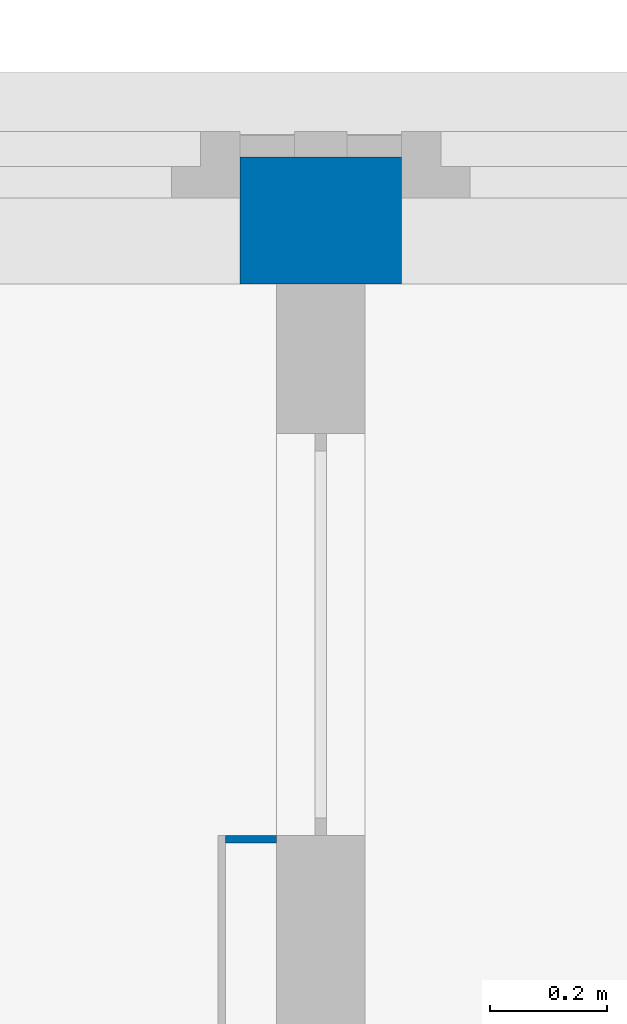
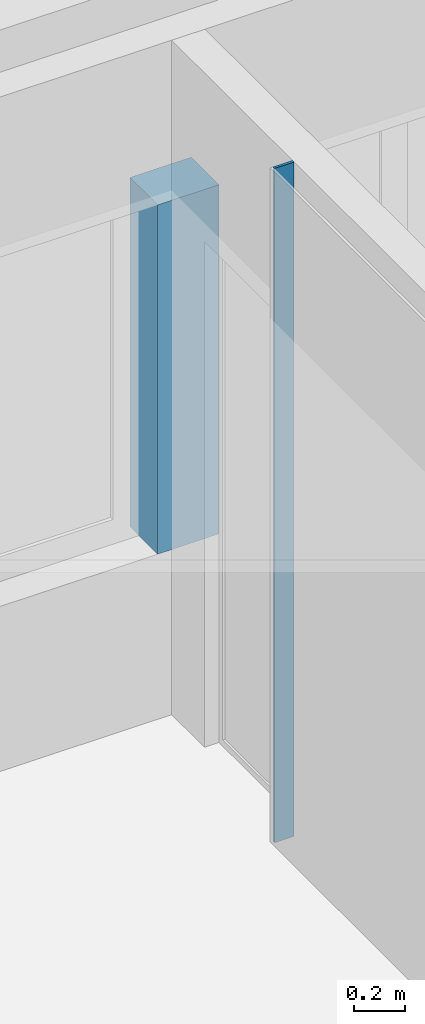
# One storey, part 63 of 117: 2 walls.
"""IFC2X3 building model written with IfcOpenShell, lengths in millimetres."""

import ifcopenshell
import ifcopenshell.guid

model = None  # the IFC model being written
_history = None  # IfcOwnerHistory: only IFC2X3 demands one
_inside = {}  # id of a spatial element -> (the spatial element, [elements in it])
_under = {}  # id of a project, library or spatial element -> (it, [spatial elements below it])
_declared = {}  # id of a project -> (the project, [libraries it declares])
_typed = {}  # id of a type object -> (the type object, [elements of that type])
_made_of = {}  # id of a material, layer set ... -> (it, [elements and type objects made of it])


def new_model(schema):
    """Start an empty IFC model of exactly this schema.

    Asked for "IFC4X3", IfcOpenShell would pick the latest addendum, in which some entities
    have other attributes; the version numbers below select the first issue.
    IFC2X3 requires an IfcOwnerHistory on every rooted entity: one is made here for all.
    """
    global model, _history
    if schema == "IFC4X3":
        model = ifcopenshell.file(schema_version=(4, 3, 0, 0))
    else:
        model = ifcopenshell.file(schema=schema)
    _inside.clear()
    _under.clear()
    _declared.clear()
    _typed.clear()
    _made_of.clear()
    _history = None
    if model.schema == "IFC2X3":
        org = make("IfcOrganization", Name="unknown")
        user = make(
            "IfcPersonAndOrganization",
            ThePerson=make("IfcPerson", FamilyName="unknown"),
            TheOrganization=org,
        )
        app = make(
            "IfcApplication",
            ApplicationDeveloper=org,
            Version="unknown",
            ApplicationFullName="unknown",
            ApplicationIdentifier="unknown",
        )
        _history = make(
            "IfcOwnerHistory",
            OwningUser=user,
            OwningApplication=app,
            ChangeAction="ADDED",
            CreationDate=0,
        )
    return model


def make(cls, **values):
    """One entity of the class cls with the attributes given. An attribute that is None is left unset."""
    return model.create_entity(
        cls, **{name: value for name, value in values.items() if value is not None}
    )


def entity(cls, *values):
    """Any entity or typed value of the class cls, its attributes in the order of the schema. None: left unset."""
    e = model.create_entity(cls)
    for i, value in enumerate(values):
        if value is not None:
            e[i] = value
    return e


def rooted(cls, **values):
    """An entity with a GlobalId (a new one), such as an element, a storey or a relation."""
    return make(cls, GlobalId=ifcopenshell.guid.new(), OwnerHistory=_history, **values)


def si_unit(unit_type, name, prefix=None):
    """IfcSIUnit, for example si_unit("LENGTHUNIT", "METRE", prefix="MILLI")."""
    return make("IfcSIUnit", UnitType=unit_type, Prefix=prefix, Name=name)


def converted_unit(unit_type, name, factor, base, dimensions=None, offset=None):
    """IfcConversionBasedUnit, such as the inch: factor (a typed value) times the base unit."""
    return make(
        "IfcConversionBasedUnit"
        if offset is None
        else "IfcConversionBasedUnitWithOffset",
        ConversionOffset=offset,
        Dimensions=None
        if dimensions is None
        else entity("IfcDimensionalExponents", *dimensions),
        UnitType=unit_type,
        Name=name,
        ConversionFactor=make(
            "IfcMeasureWithUnit", ValueComponent=factor, UnitComponent=base
        ),
    )


def derived_unit(unit_type, elements):
    """IfcDerivedUnit: a product of units, each with its exponent."""
    return make(
        "IfcDerivedUnit",
        Elements=[
            make("IfcDerivedUnitElement", Unit=unit, Exponent=power)
            for unit, power in elements
        ],
        UnitType=unit_type,
    )


def money_unit(currency):
    """IfcMonetaryUnit."""
    return make("IfcMonetaryUnit", Currency=currency)


def assignment(units):
    """IfcUnitAssignment: the units of a project."""
    return None if units is None else make("IfcUnitAssignment", Units=units)


def point(xyz):
    """IfcCartesianPoint."""
    return None if xyz is None else make("IfcCartesianPoint", Coordinates=xyz)


def direction(xyz):
    """IfcDirection."""
    return None if xyz is None else make("IfcDirection", DirectionRatios=xyz)


def frame(location, z_axis=None, x_axis=None):
    """IfcAxis2Placement3D, a coordinate frame: its origin and axes. An axis left out is left unset."""
    return make(
        "IfcAxis2Placement3D",
        Location=point(location),
        Axis=direction(z_axis),
        RefDirection=direction(x_axis),
    )


def origin_with_axes():
    """The frame at (0, 0, 0) with the z axis (0, 0, 1) and the x axis (1, 0, 0) written out."""
    return frame((0.0, 0.0, 0.0), z_axis=(0.0, 0.0, 1.0), x_axis=(1.0, 0.0, 0.0))


def place(relative_to, where):
    """IfcLocalPlacement: puts the frame where relative to a parent placement (None: the world)."""
    return make(
        "IfcLocalPlacement", PlacementRelTo=relative_to, RelativePlacement=where
    )


def context(
    kind, dimensions, precision=None, world=None, true_north=None, identifier=None
):
    """IfcGeometricRepresentationContext, for example the 3D "Model" context."""
    return make(
        "IfcGeometricRepresentationContext",
        ContextIdentifier=identifier,
        ContextType=kind,
        CoordinateSpaceDimension=dimensions,
        Precision=precision,
        WorldCoordinateSystem=world,
        TrueNorth=true_north,
    )


def subcontext(parent, identifier, kind, view, scale=None):
    """IfcGeometricRepresentationSubContext, for example "Body" below "Model"."""
    return make(
        "IfcGeometricRepresentationSubContext",
        ContextIdentifier=identifier,
        ContextType=kind,
        ParentContext=parent,
        TargetScale=scale,
        TargetView=view,
    )


def project(units=None, contexts=None):
    """IfcProject with its units and contexts."""
    return rooted(
        "IfcProject",
        Name="project",
        RepresentationContexts=contexts,
        UnitsInContext=assignment(units),
    )


def spatial(cls, under=None, at=None, **own):
    """A site, building, storey or space (cls), placed at a placement, below another one or the project."""
    s = rooted(cls, ObjectPlacement=at, **own)
    if under is not None:
        _under.setdefault(under.id(), (under, []))[1].append(s)
    return s


def faces_of(points, faces, orient=None, outer=None):
    """IfcFace entities. A face is a list of loops; a loop is a list of indices into points, from 0.

    orient and outer hold one flag for each loop. By default every Orientation is true, the
    first loop of a face is its IfcFaceOuterBound and the others are IfcFaceBound.
    """
    made = []
    for i, loops in enumerate(faces):
        bounds = []
        for j, loop in enumerate(loops):
            is_outer = j == 0 if outer is None else outer[i][j]
            bounds.append(
                make(
                    "IfcFaceOuterBound" if is_outer else "IfcFaceBound",
                    Bound=make("IfcPolyLoop", Polygon=[points[k] for k in loop]),
                    Orientation=True if orient is None else orient[i][j],
                )
            )
        made.append(make("IfcFace", Bounds=bounds))
    return made


def faceted_brep(points, faces, orient=None, outer=None, voids=None):
    """IfcFacetedBrep: a solid bounded by flat faces; with voids (closed shells), ...WithVoids."""
    shared = [point(p) for p in points]
    hull = make("IfcClosedShell", CfsFaces=faces_of(shared, faces, orient, outer))
    if voids is None:
        return make("IfcFacetedBrep", Outer=hull)
    return make(
        "IfcFacetedBrepWithVoids",
        Outer=hull,
        Voids=[
            make(cls, CfsFaces=faces_of(shared, fs, o, b)) for cls, fs, o, b in voids
        ],
    )


def shape(context_of_items, identifier, shape_type, items):
    """IfcShapeRepresentation: the items that make up one representation, for example the "Body"."""
    return make(
        "IfcShapeRepresentation",
        ContextOfItems=context_of_items,
        RepresentationIdentifier=identifier,
        RepresentationType=shape_type,
        Items=items,
    )


def material(Name=None, Category=None):
    """IfcMaterial."""
    return make("IfcMaterial", Name=Name, Category=Category)


def made_of(thing, what):
    """Note that an element or type object is made of a material, layer set ...; save() writes the relation."""
    if what is not None:
        _made_of.setdefault(what.id(), (what, []))[1].append(thing)
    return thing


def type_object(cls, material=None, **own):
    """A type object (cls), such as IfcWallType, which elements share."""
    return made_of(rooted(cls, **own), material)


def element(
    cls,
    number,
    at=None,
    inside=None,
    cuts=None,
    type_object=None,
    material=None,
    context=None,
    identifier="Body",
    shape_type=None,
    held_by="IfcProductDefinitionShape",
    body=None,
    shapes=None,
    **own,
):
    """One element of the class cls, such as IfcWall. Its Tag is "e" and its number.

    at: its placement. inside: the storey or other place that contains it. cuts: it is an
    opening in that element (IfcRelVoidsElement). A single representation is given by context,
    identifier, shape_type and body (its items); several are given by shapes. held_by: the class
    of the entity that holds the representations. save() writes the other relations.
    """
    e = rooted(cls, Tag="e%d" % number, ObjectPlacement=at, **own)
    if body is not None:
        shapes = [shape(context, identifier, shape_type, body)]
    if shapes is not None:
        e.Representation = make(held_by, Representations=shapes)
    if inside is not None:
        _inside.setdefault(inside.id(), (inside, []))[1].append(e)
    if cuts is not None:
        rooted(
            "IfcRelVoidsElement", RelatingBuildingElement=cuts, RelatedOpeningElement=e
        )
    if type_object is not None:
        _typed.setdefault(type_object.id(), (type_object, []))[1].append(e)
    return made_of(e, material)


def aggregate(whole, parts):
    """IfcRelAggregates: a whole, such as a stair, and the parts it consists of."""
    return rooted("IfcRelAggregates", RelatingObject=whole, RelatedObjects=parts)


def save(model, path):
    """Write the relations noted so far, then the file.

    IfcRelAggregates (storeys below a building ...), IfcRelContainedInSpatialStructure (elements
    in a storey), IfcRelDefinesByType, IfcRelAssociatesMaterial and IfcRelDeclares: one each for
    every whole, place, type object, material and project.
    """
    for whole, parts in _under.values():
        aggregate(whole, parts)
    for where, things in _inside.values():
        rooted(
            "IfcRelContainedInSpatialStructure",
            RelatedElements=things,
            RelatingStructure=where,
        )
    for kind, things in _typed.values():
        rooted("IfcRelDefinesByType", RelatedObjects=things, RelatingType=kind)
    for what, things in _made_of.values():
        rooted("IfcRelAssociatesMaterial", RelatedObjects=things, RelatingMaterial=what)
    for by, libraries in _declared.values():
        rooted("IfcRelDeclares", RelatingContext=by, RelatedDefinitions=libraries)
    model.write(path)


model = new_model("IFC2X3")

# Units and contexts
model_context = context("Model", 3, precision=0.01, world=origin_with_axes(), true_north=direction((0.0, 1.0)))
body_context = subcontext(model_context, "Body", "Model", "MODEL_VIEW")
ifc_project = project(units=[si_unit("LENGTHUNIT", "METRE", prefix="MILLI"), si_unit("AREAUNIT", "SQUARE_METRE"), si_unit("VOLUMEUNIT", "CUBIC_METRE"), converted_unit("PLANEANGLEUNIT", "DEGREE", entity("IfcPlaneAngleMeasure", 0.0174532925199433), si_unit("PLANEANGLEUNIT", "RADIAN"), dimensions=[0, 0, 0, 0, 0, 0, 0]), money_unit("EUR"), converted_unit("TIMEUNIT", "Year", entity("IfcTimeMeasure", 31557600.0), si_unit("TIMEUNIT", "SECOND"), dimensions=[0, 0, 1, 0, 0, 0, 0]), si_unit("MASSUNIT", "GRAM", prefix="KILO"), si_unit("THERMODYNAMICTEMPERATUREUNIT", "DEGREE_CELSIUS"), si_unit("LUMINOUSINTENSITYUNIT", "LUMEN"), si_unit("ENERGYUNIT", "JOULE", prefix="MEGA"), derived_unit("THERMALCONDUCTANCEUNIT", [(si_unit("POWERUNIT", "WATT"), 1), (si_unit("LENGTHUNIT", "METRE"), -1), (si_unit("THERMODYNAMICTEMPERATUREUNIT", "KELVIN"), -1)]), derived_unit("SPECIFICHEATCAPACITYUNIT", [(si_unit("ENERGYUNIT", "JOULE"), 1), (si_unit("MASSUNIT", "GRAM", prefix="KILO"), -1), (si_unit("THERMODYNAMICTEMPERATUREUNIT", "KELVIN"), -1)]), derived_unit("MASSDENSITYUNIT", [(si_unit("MASSUNIT", "GRAM", prefix="KILO"), 1), (si_unit("VOLUMEUNIT", "CUBIC_METRE"), -1)])], contexts=[model_context])

# Site, building, storey
site_placement = place(None, origin_with_axes())
site = spatial("IfcSite", under=ifc_project, at=site_placement, Name="Site", CompositionType="ELEMENT")
building_placement = place(site_placement, origin_with_axes())
building = spatial("IfcBuilding", under=site, at=building_placement, Name="Naam gebouw", CompositionType="ELEMENT")
storey_placement = place(building_placement, frame((0.0, 0.0, 4150.0), z_axis=(0.0, 0.0, 1.0), x_axis=(1.0, 0.0, 0.0)))
storey = spatial("IfcBuildingStorey", under=building, at=storey_placement, Name="1e verdieping N", CompositionType="ELEMENT", Elevation=4150.0)

# Walls
ifc_material_1 = material(Name="Gipsplaat")
wall_type_1 = type_object("IfcWallType", Name="Metalstud 100 enkel 100", PredefinedType="NOTDEFINED")
wall_1_placement = place(storey_placement, frame((39525.0, 26565.9124251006, 0.0), z_axis=(0.0, 0.0, 1.0), x_axis=(-1.0, 0.0, 0.0)))
element("IfcWall", 1, at=wall_1_placement, inside=storey, type_object=wall_type_1, material=ifc_material_1, Name="_Wand-x", context=body_context, shape_type="Brep", body=[
    faceted_brep([(87.49999999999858, 0.0, 0.0), (87.49999999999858, 0.0, 3200.0), (0.0, 0.0, 3200.0), (0.0, 0.0, 0.0), (87.49999999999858, 12.49999999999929, 0.0), (87.49999999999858, 12.49999999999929, 3200.0), (0.0, 12.49999999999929, 3200.0), (0.0, 12.49999999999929, 0.0)], [[[0, 1, 2, 3]], [[4, 5, 1, 0]], [[5, 6, 2, 1]], [[3, 2, 6, 7]], [[7, 4, 0, 3]], [[7, 6, 5, 4]]]),
])
ifc_material_2 = material(Name="ALG - GEVEL")
wall_type_2 = type_object("IfcWallType", Name="ALG - GEVEL 260", PredefinedType="NOTDEFINED")
wall_2_placement = place(storey_placement, frame((39737.50000000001, 27765.91242510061, 783.0000000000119), z_axis=(0.0, 0.0, 1.0), x_axis=(-1.0, 0.0, 0.0)))
element("IfcWall", 2, at=wall_2_placement, inside=storey, type_object=wall_type_2, material=ifc_material_2, Name="_Wand-x", context=body_context, shape_type="Brep", body=[
    faceted_brep([(0.0, 43.99999999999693, 1656.999999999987), (0.0, 43.99999999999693, 0.0), (275.0000000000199, 43.99999999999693, 0.0), (275.0000000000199, 43.99999999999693, 1656.999999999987), (0.0, 260.0000000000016, 0.0), (0.0, 260.0000000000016, 1656.999999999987), (275.0000000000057, 260.0000000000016, 0.0), (275.0000000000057, 260.0000000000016, 1656.999999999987)], [[[0, 1, 2, 3]], [[4, 1, 0, 5]], [[2, 1, 4, 6]], [[7, 3, 2, 6]], [[0, 3, 7, 5]], [[6, 4, 5, 7]]]),
])

save(model, "model.ifc")
